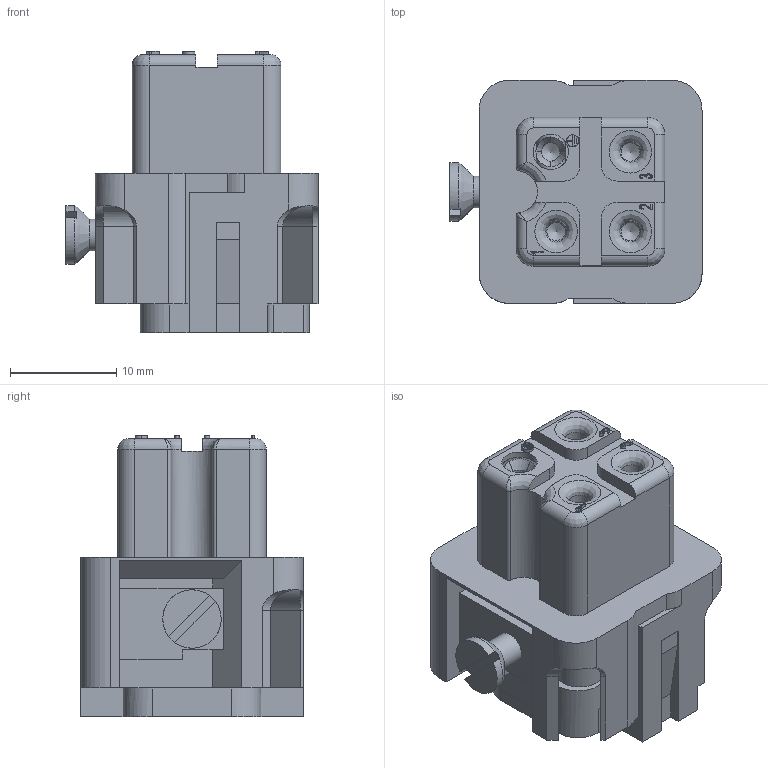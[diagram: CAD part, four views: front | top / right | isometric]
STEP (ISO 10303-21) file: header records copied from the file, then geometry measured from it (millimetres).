
FILE_DESCRIPTION(/* description */ (''),/* implementation_level */ '2;1');
FILE_NAME(/* name */ '100094970ugm000_d.stp',/* time_stamp */ '2022-03-11T09:51:27+01:00',/* author */ (''),/* organization */ (''),/* preprocessor_version */ 'ST-DEVELOPER v16.7',/* originating_system */ 'SIEMENS PLM Software NX 1911',/* authorisation */ '');
FILE_SCHEMA (('AUTOMOTIVE_DESIGN { 1 0 10303 214 3 1 1 1 }'));
Length unit declared in the file: millimetre
Products named in the file (1): 100094970ugm000_d
Bounding box: 23.75 x 21 x 26.5 mm (x, y, z)
Volume: 6674.1 mm3; surface area: 3757.4 mm2
Topology: 1 solids, 1 shells, 465 faces, 1275 edges, 852 vertices
Faces by surface type: plane 284, cylinder 90, extrusion 60, bspline 12, cone 11, revolution 8
Full cylindrical faces by diameter (mm): 0.455 x1, 0.538 x1, 0.8 x1, 0.854 x1, 1.117 x1, 1.157 x1, 1.75 x3, 2 x3, 2.7 x4, 3 x1, 3.15 x4, 3.35 x1
Entity records: 19628 total; most frequent: CARTESIAN_POINT 5158, ORIENTED_EDGE 2424, DIRECTION 2005, EDGE_CURVE 1212, VECTOR 847, VERTEX_POINT 827, LINE 787, AXIS2_PLACEMENT_3D 575
